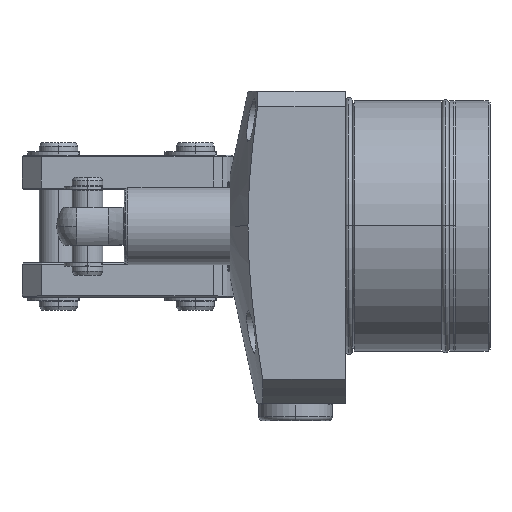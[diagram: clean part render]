
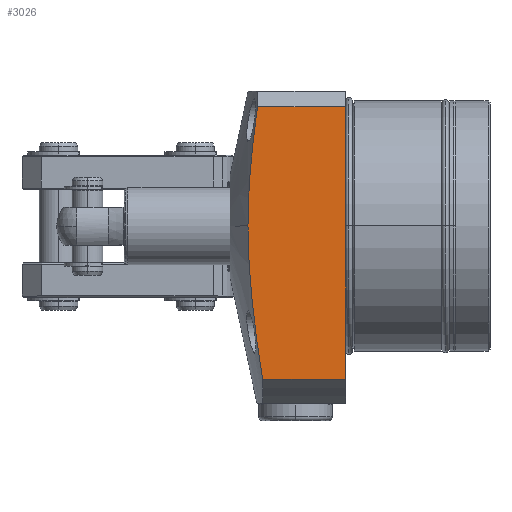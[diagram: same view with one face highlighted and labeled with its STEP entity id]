
A CAD part, top view. The second image highlights one B-rep face of the part: STEP entity #3026.
In plain terms, the highlighted planar face has unit normal (0, 0, 1).
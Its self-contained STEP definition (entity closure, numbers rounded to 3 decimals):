
#1451=B_SPLINE_CURVE_WITH_KNOTS('',3,(#12084,#12085,#12086,#12087),
 .UNSPECIFIED.,.F.,.F.,(4,4),(0.,1.),.UNSPECIFIED.);
#1477=B_SPLINE_CURVE_WITH_KNOTS('',3,(#12640,#12641,#12642,#12643),
 .UNSPECIFIED.,.F.,.F.,(4,4),(0.,1.),.UNSPECIFIED.);
#1753=PLANE('',#8387);
#2319=LINE('',#12565,#2665);
#2322=LINE('',#12618,#2668);
#2326=LINE('',#12638,#2672);
#2665=VECTOR('',#10263,1.);
#2668=VECTOR('',#10310,1.);
#2672=VECTOR('',#10332,1.);
#3026=ADVANCED_FACE('',(#3462),#1753,.F.);
#3462=FACE_OUTER_BOUND('',#3885,.T.);
#3885=EDGE_LOOP('',(#5437,#5438,#5439,#5440,#5441));
#5437=ORIENTED_EDGE('',*,*,#7050,.F.);
#5438=ORIENTED_EDGE('',*,*,#7072,.T.);
#5439=ORIENTED_EDGE('',*,*,#6934,.T.);
#5440=ORIENTED_EDGE('',*,*,#7073,.T.);
#5441=ORIENTED_EDGE('',*,*,#7063,.F.);
#6153=VERTEX_POINT('',#12083);
#6154=VERTEX_POINT('',#12088);
#6240=VERTEX_POINT('',#12564);
#6241=VERTEX_POINT('',#12566);
#6244=VERTEX_POINT('',#12619);
#6934=EDGE_CURVE('',#6154,#6153,#1451,.T.);
#7050=EDGE_CURVE('',#6240,#6241,#2319,.T.);
#7063=EDGE_CURVE('',#6241,#6244,#2322,.T.);
#7072=EDGE_CURVE('',#6240,#6154,#2326,.T.);
#7073=EDGE_CURVE('',#6153,#6244,#1477,.T.);
#8387=AXIS2_PLACEMENT_3D('',#12644,#10335,#10336);
#10263=DIRECTION('',(0.,-1.,0.));
#10310=DIRECTION('',(-1.,0.,0.));
#10332=DIRECTION('',(-1.,0.,0.));
#10335=DIRECTION('',(0.,0.,-1.));
#10336=DIRECTION('',(0.,-1.,0.));
#12083=CARTESIAN_POINT('',(-25.336,0.,35.));
#12084=CARTESIAN_POINT('',(-22.837,31.,35.));
#12085=CARTESIAN_POINT('',(-24.287,20.716,35.));
#12086=CARTESIAN_POINT('',(-25.336,10.4,35.));
#12087=CARTESIAN_POINT('',(-25.336,0.,35.));
#12088=CARTESIAN_POINT('',(-22.837,31.,35.));
#12564=CARTESIAN_POINT('',(0.,31.,35.));
#12565=CARTESIAN_POINT('',(0.,31.,35.));
#12566=CARTESIAN_POINT('',(0.,-39.799,35.));
#12618=CARTESIAN_POINT('',(31.5,-39.799,35.));
#12619=CARTESIAN_POINT('',(-21.51,-39.799,35.));
#12638=CARTESIAN_POINT('',(31.501,31.,35.));
#12640=CARTESIAN_POINT('',(-25.336,0.,35.));
#12641=CARTESIAN_POINT('',(-25.336,-13.38,35.));
#12642=CARTESIAN_POINT('',(-23.615,-26.613,35.));
#12643=CARTESIAN_POINT('',(-21.51,-39.799,35.));
#12644=CARTESIAN_POINT('',(31.501,31.,35.));
